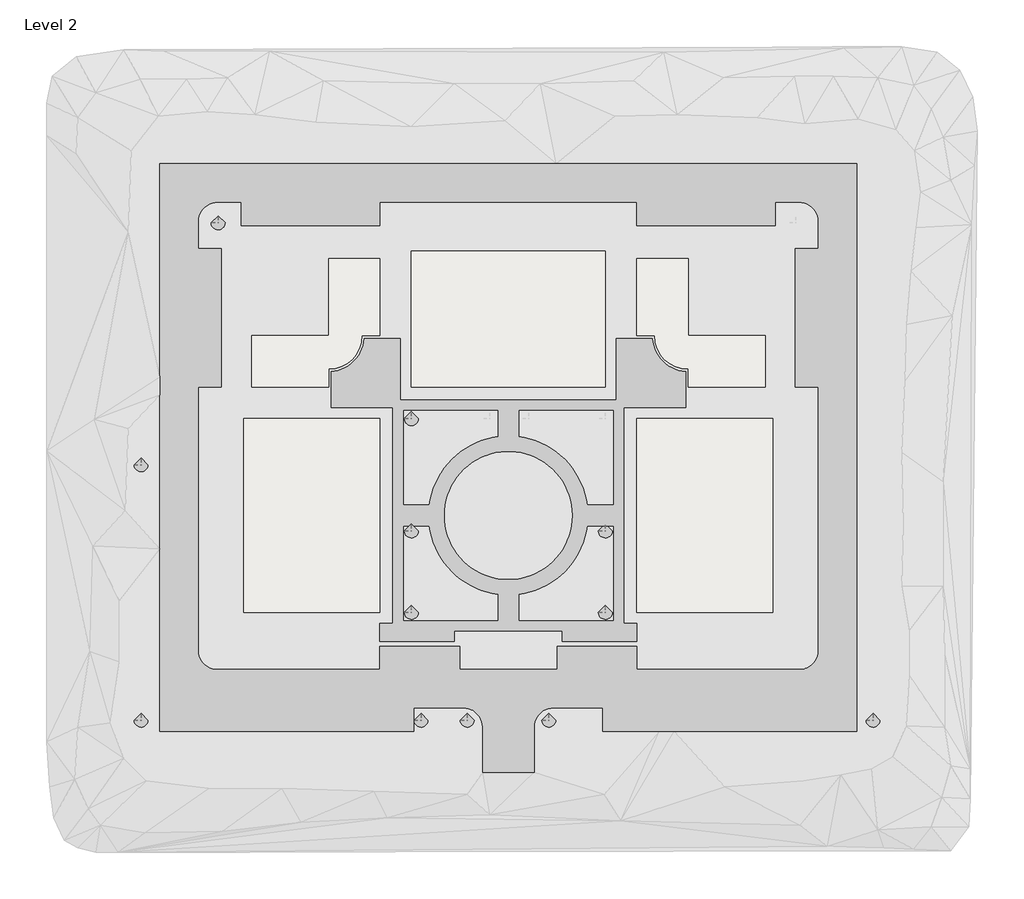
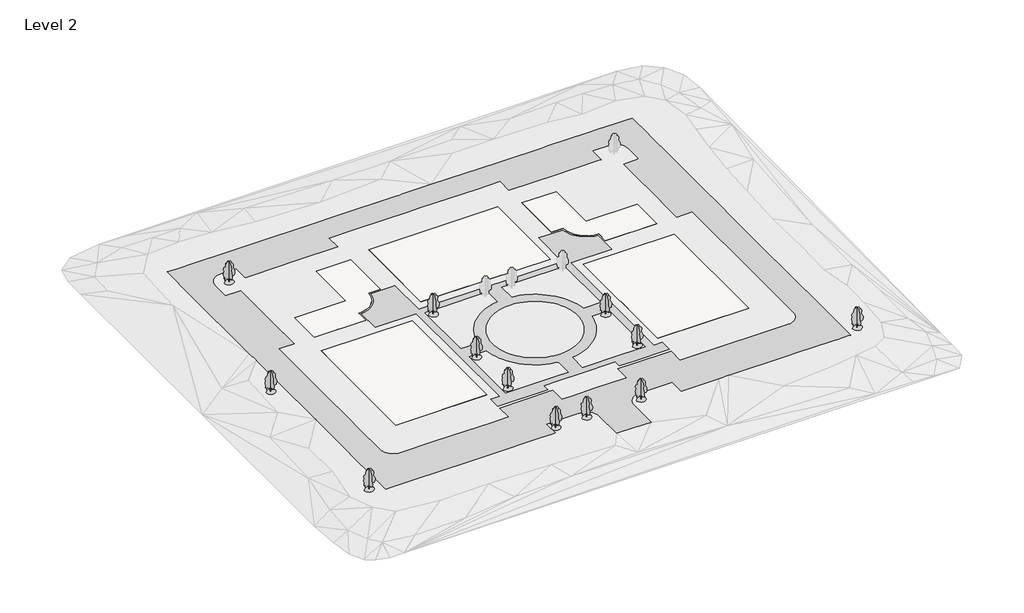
# One storey, part 1 of 2: 12 geographic elements, 5 slabs, 2 proxies.
"""IFC4 building model written with IfcOpenShell, lengths in millimetres."""

import ifcopenshell
import ifcopenshell.guid

model = None  # the IFC model being written
_history = None  # IfcOwnerHistory: only IFC2X3 demands one
_inside = {}  # id of a spatial element -> (the spatial element, [elements in it])
_under = {}  # id of a project, library or spatial element -> (it, [spatial elements below it])
_declared = {}  # id of a project -> (the project, [libraries it declares])
_typed = {}  # id of a type object -> (the type object, [elements of that type])
_made_of = {}  # id of a material, layer set ... -> (it, [elements and type objects made of it])


def new_model(schema):
    """Start an empty IFC model of exactly this schema.

    Asked for "IFC4X3", IfcOpenShell would pick the latest addendum, in which some entities
    have other attributes; the version numbers below select the first issue.
    IFC2X3 requires an IfcOwnerHistory on every rooted entity: one is made here for all.
    """
    global model, _history
    if schema == "IFC4X3":
        model = ifcopenshell.file(schema_version=(4, 3, 0, 0))
    else:
        model = ifcopenshell.file(schema=schema)
    _inside.clear()
    _under.clear()
    _declared.clear()
    _typed.clear()
    _made_of.clear()
    _history = None
    if model.schema == "IFC2X3":
        org = make("IfcOrganization", Name="unknown")
        user = make(
            "IfcPersonAndOrganization",
            ThePerson=make("IfcPerson", FamilyName="unknown"),
            TheOrganization=org,
        )
        app = make(
            "IfcApplication",
            ApplicationDeveloper=org,
            Version="unknown",
            ApplicationFullName="unknown",
            ApplicationIdentifier="unknown",
        )
        _history = make(
            "IfcOwnerHistory",
            OwningUser=user,
            OwningApplication=app,
            ChangeAction="ADDED",
            CreationDate=0,
        )
    return model


def make(cls, **values):
    """One entity of the class cls with the attributes given. An attribute that is None is left unset."""
    return model.create_entity(
        cls, **{name: value for name, value in values.items() if value is not None}
    )


def rooted(cls, **values):
    """An entity with a GlobalId (a new one), such as an element, a storey or a relation."""
    return make(cls, GlobalId=ifcopenshell.guid.new(), OwnerHistory=_history, **values)


def si_unit(unit_type, name, prefix=None):
    """IfcSIUnit, for example si_unit("LENGTHUNIT", "METRE", prefix="MILLI")."""
    return make("IfcSIUnit", UnitType=unit_type, Prefix=prefix, Name=name)


def assignment(units):
    """IfcUnitAssignment: the units of a project."""
    return None if units is None else make("IfcUnitAssignment", Units=units)


def point(xyz):
    """IfcCartesianPoint."""
    return None if xyz is None else make("IfcCartesianPoint", Coordinates=xyz)


def direction(xyz):
    """IfcDirection."""
    return None if xyz is None else make("IfcDirection", DirectionRatios=xyz)


def frame(location, z_axis=None, x_axis=None):
    """IfcAxis2Placement3D, a coordinate frame: its origin and axes. An axis left out is left unset."""
    return make(
        "IfcAxis2Placement3D",
        Location=point(location),
        Axis=direction(z_axis),
        RefDirection=direction(x_axis),
    )


def frame_2d(location, x_axis=None):
    """IfcAxis2Placement2D, a coordinate frame in the plane: its origin and x axis."""
    return make(
        "IfcAxis2Placement2D", Location=point(location), RefDirection=direction(x_axis)
    )


def origin():
    """The frame at (0, 0, 0) with its axes left unset."""
    return frame((0.0, 0.0, 0.0))


def place(relative_to, where):
    """IfcLocalPlacement: puts the frame where relative to a parent placement (None: the world)."""
    return make(
        "IfcLocalPlacement", PlacementRelTo=relative_to, RelativePlacement=where
    )


def context(
    kind, dimensions, precision=None, world=None, true_north=None, identifier=None
):
    """IfcGeometricRepresentationContext, for example the 3D "Model" context."""
    return make(
        "IfcGeometricRepresentationContext",
        ContextIdentifier=identifier,
        ContextType=kind,
        CoordinateSpaceDimension=dimensions,
        Precision=precision,
        WorldCoordinateSystem=world,
        TrueNorth=true_north,
    )


def project(units=None, contexts=None):
    """IfcProject with its units and contexts."""
    return rooted(
        "IfcProject",
        Name="project",
        RepresentationContexts=contexts,
        UnitsInContext=assignment(units),
    )


def spatial(cls, under=None, at=None, **own):
    """A site, building, storey or space (cls), placed at a placement, below another one or the project."""
    s = rooted(cls, ObjectPlacement=at, **own)
    if under is not None:
        _under.setdefault(under.id(), (under, []))[1].append(s)
    return s


def polyline(points):
    """IfcPolyline through the points."""
    return make("IfcPolyline", Points=[point(p) for p in points])


def point_list(points):
    """IfcCartesianPointList2D or 3D."""
    cls = (
        "IfcCartesianPointList2D" if len(points[0]) == 2 else "IfcCartesianPointList3D"
    )
    return make(cls, CoordList=points)


def circle_curve(where, radius):
    """IfcCircle in the frame where."""
    return make("IfcCircle", Position=where, Radius=radius)


def trimmed(basis, trim1, trim2, sense, master):
    """IfcTrimmedCurve: the piece of a basis curve between two trims."""
    return make(
        "IfcTrimmedCurve",
        BasisCurve=basis,
        Trim1=trim1,
        Trim2=trim2,
        SenseAgreement=sense,
        MasterRepresentation=master,
    )


def segment(curve, same_sense, transition):
    """IfcCompositeCurveSegment."""
    return make(
        "IfcCompositeCurveSegment",
        Transition=transition,
        SameSense=same_sense,
        ParentCurve=curve,
    )


def composite_curve(segments, self_intersect=None):
    """IfcCompositeCurve: segments joined end to end."""
    return make("IfcCompositeCurve", Segments=segments, SelfIntersect=self_intersect)


def outline(outer, holes=None, kind="AREA"):
    """IfcArbitraryClosedProfileDef: a profile drawn as a closed curve; with holes, ...WithVoids."""
    if holes is None:
        return make("IfcArbitraryClosedProfileDef", ProfileType=kind, OuterCurve=outer)
    return make(
        "IfcArbitraryProfileDefWithVoids",
        ProfileType=kind,
        OuterCurve=outer,
        InnerCurves=holes,
    )


def extrude(swept, where, along, depth):
    """IfcExtrudedAreaSolid: the profile swept, set in the frame where, extruded along a direction by depth."""
    return make(
        "IfcExtrudedAreaSolid",
        SweptArea=swept,
        Position=where,
        ExtrudedDirection=direction(along),
        Depth=depth,
    )


def triangles(points, corners, closed=None, point_numbers=None):
    """IfcTriangulatedFaceSet: each triangle names its three corners, points numbered from 1."""
    return make(
        "IfcTriangulatedFaceSet",
        Coordinates=point_list(points),
        Closed=closed,
        CoordIndex=corners,
        PnIndex=point_numbers,
    )


def shape(context_of_items, identifier, shape_type, items):
    """IfcShapeRepresentation: the items that make up one representation, for example the "Body"."""
    return make(
        "IfcShapeRepresentation",
        ContextOfItems=context_of_items,
        RepresentationIdentifier=identifier,
        RepresentationType=shape_type,
        Items=items,
    )


def source(mapping_origin, context_of_items, identifier, shape_type, items):
    """IfcRepresentationMap: a shape defined once, which mapped items show again and again."""
    return make(
        "IfcRepresentationMap",
        MappingOrigin=mapping_origin,
        MappedRepresentation=shape(context_of_items, identifier, shape_type, items),
    )


def transform(
    local_origin,
    x_axis=None,
    y_axis=None,
    z_axis=None,
    scale=None,
    scale2=None,
    scale3=None,
    uniform=True,
):
    """IfcCartesianTransformationOperator3D, or its non-uniform kind. x_axis, y_axis, z_axis: its Axis1, 2, 3."""
    if uniform:
        return make(
            "IfcCartesianTransformationOperator3D",
            Axis1=direction(x_axis),
            Axis2=direction(y_axis),
            LocalOrigin=point(local_origin),
            Scale=scale,
            Axis3=direction(z_axis),
        )
    return make(
        "IfcCartesianTransformationOperator3DnonUniform",
        Axis1=direction(x_axis),
        Axis2=direction(y_axis),
        LocalOrigin=point(local_origin),
        Scale=scale,
        Axis3=direction(z_axis),
        Scale2=scale2,
        Scale3=scale3,
    )


def mapped(mapping_source, mapping_target):
    """IfcMappedItem: shows the shape of a source again, moved by a transform."""
    return make(
        "IfcMappedItem", MappingSource=mapping_source, MappingTarget=mapping_target
    )


def made_of(thing, what):
    """Note that an element or type object is made of a material, layer set ...; save() writes the relation."""
    if what is not None:
        _made_of.setdefault(what.id(), (what, []))[1].append(thing)
    return thing


def element(
    cls,
    number,
    at=None,
    inside=None,
    cuts=None,
    type_object=None,
    material=None,
    context=None,
    identifier="Body",
    shape_type=None,
    held_by="IfcProductDefinitionShape",
    body=None,
    shapes=None,
    **own,
):
    """One element of the class cls, such as IfcWall. Its Tag is "e" and its number.

    at: its placement. inside: the storey or other place that contains it. cuts: it is an
    opening in that element (IfcRelVoidsElement). A single representation is given by context,
    identifier, shape_type and body (its items); several are given by shapes. held_by: the class
    of the entity that holds the representations. save() writes the other relations.
    """
    e = rooted(cls, Tag="e%d" % number, ObjectPlacement=at, **own)
    if body is not None:
        shapes = [shape(context, identifier, shape_type, body)]
    if shapes is not None:
        e.Representation = make(held_by, Representations=shapes)
    if inside is not None:
        _inside.setdefault(inside.id(), (inside, []))[1].append(e)
    if cuts is not None:
        rooted(
            "IfcRelVoidsElement", RelatingBuildingElement=cuts, RelatedOpeningElement=e
        )
    if type_object is not None:
        _typed.setdefault(type_object.id(), (type_object, []))[1].append(e)
    return made_of(e, material)


def aggregate(whole, parts):
    """IfcRelAggregates: a whole, such as a stair, and the parts it consists of."""
    return rooted("IfcRelAggregates", RelatingObject=whole, RelatedObjects=parts)


def save(model, path):
    """Write the relations noted so far, then the file.

    IfcRelAggregates (storeys below a building ...), IfcRelContainedInSpatialStructure (elements
    in a storey), IfcRelDefinesByType, IfcRelAssociatesMaterial and IfcRelDeclares: one each for
    every whole, place, type object, material and project.
    """
    for whole, parts in _under.values():
        aggregate(whole, parts)
    for where, things in _inside.values():
        rooted(
            "IfcRelContainedInSpatialStructure",
            RelatedElements=things,
            RelatingStructure=where,
        )
    for kind, things in _typed.values():
        rooted("IfcRelDefinesByType", RelatedObjects=things, RelatingType=kind)
    for what, things in _made_of.values():
        rooted("IfcRelAssociatesMaterial", RelatedObjects=things, RelatingMaterial=what)
    for by, libraries in _declared.values():
        rooted("IfcRelDeclares", RelatingContext=by, RelatedDefinitions=libraries)
    model.write(path)


def rpc_tree_deciduous_red_ash_25_14781bec(model_context):
    return source(origin(), model_context, "Body", "Tessellation", [
        triangles([(-1644.9525009, 0.0, 6.19e-05), (-1601.4651844, -376.9143482, 6.19e-05), (-1477.6144592, -723.0498339, 6.19e-05), (-1283.3164352, -1028.4894024, 6.19e-05), (-1028.4894751, -1283.3165806, 6.19e-05), (-723.0496885, -1477.6140232, 6.19e-05), (-376.9141665, -1601.4651844, 6.19e-05), (7.19e-05, -1644.9525009, 6.19e-05), (376.9143846, -1601.4651844, 6.19e-05), (723.0499065, -1477.6143139, 6.19e-05), (1028.4894751, -1283.3164352, 6.19e-05), (1283.3168713, -1028.4894751, 6.19e-05), (1477.6141685, -723.0496159, 6.19e-05), (1601.4651844, -376.9140939, 6.19e-05), (1644.9525009, 0.0001438, 6.19e-05), (-0.0002157, 1644.9525009, 6.19e-05), (-1.07e-05, -102.8462569, 0.0), (2.5e-05, -101.2467179, 1194.554048), (3.23e-05, -129.8819613, 1537.8029366), (7e-07, -438.8253948, 1558.1655018), (-5.78e-05, -976.3912743, 1478.3068588), (-0.0001405, -1903.692667, 1948.6771305), (-0.0001413, -2011.2060173, 2298.095192), (-0.0001361, -2145.5975235, 2943.1744217), (-0.0001119, -2105.2803623, 3615.1319527), (-5.81e-05, -1740.3819958, 4141.0172951), (-5.5e-06, -1527.3986298, 5160.6350006), (-3.5e-06, -1715.5451397, 5886.3488434), (4.79e-05, -1406.4449661, 6531.4286545), (0.0001569, -626.9743755, 7458.7301926), (0.0001985, -273.2007115, 7618.1942963), (0.0002662, 394.4016166, 7552.8046829), (0.0003121, 1026.0418774, 6880.8468613), (0.0003149, 1214.190204, 6316.4022446), (0.0003323, 1496.411277, 5913.2274353), (0.0003598, 1805.5131947, 5751.9582092), (0.0003531, 1818.9521999, 5483.1746155), (0.0003523, 1899.587249, 5174.0742966), (0.0003275, 1765.1957428, 4811.2170845), (0.0003297, 1886.1480984, 4461.7991684), (0.0003279, 2007.1004539, 3977.9897461), (0.0003211, 1980.222298, 3843.5979492), (0.0002877, 1751.7567375, 3521.0580437), (0.0002729, 1737.3115437, 3077.5662186), (0.0002632, 1724.8782909, 2795.3439102), (0.0002542, 1738.3174416, 2445.9262848), (0.0002412, 1751.7568829, 1962.1167171), (0.0002172, 1563.6084835, 1814.2857697), (0.0001807, 1214.1907127, 1814.2857697), (0.0001827, 1375.4605202, 1317.0371967), (0.0001715, 1348.4951603, 1034.8845062), (0.0001516, 1103.0310734, 1227.8363914), (9.86e-05, 629.4626684, 1106.7075932), (9.8e-05, 551.7118183, 1357.0609165), (6.29e-05, 215.9127657, 1354.0025276), (5.03e-05, 130.8012366, 1228.3346169), (3.27e-05, 79.5493323, 818.2831198), (1.17e-05, 112.1660096, 1.28e-05), (-110.870867, 4.8e-06, 4.46e-05), (-66.7114758, -9.64e-05, 833.5016676), (-129.3072962, -0.000136, 1187.9435503), (-290.7878647, -0.00015, 1365.31768), (-483.6364677, -0.0001408, 1358.6964272), (-796.2678211, -0.000103, 1155.7673166), (-1427.9080456, -6.9e-05, 1102.0108595), (-1419.1706429, -7.35e-05, 1136.7646975), (-1409.8454853, -7.82e-05, 1172.6938271), (-1399.3449635, -8.32e-05, 1210.9736853), (-1387.0813225, -8.87e-05, 1252.7803631), (-1372.4668076, -9.49e-05, 1299.2876987), (-1354.9136639, -0.0001019, 1351.6733093), (-1333.8341366, -0.0001099, 1411.1111057), (-1307.2693336, -0.0001176, 1466.2392815), (-1274.3570984, -0.0001239, 1506.556588), (-1236.1555058, -0.0001289, 1534.5316246), (-1193.7220493, -0.0001329, 1552.6338627), (-1148.1152401, -0.0001362, 1563.3300121), (-1100.3923536, -0.000139, 1569.0895443), (-1051.6116829, -0.0001415, 1572.3809132), (-1199.4421944, -0.0001703, 1868.0423721), (-1629.4953049, -0.0001418, 1787.4073231), (-1871.3997253, -0.0001601, 2029.3124702), (-1723.5690685, -0.0001874, 2204.0214283), (-1763.886375, -0.0002433, 2687.8309959), (-1911.7170319, -0.0003442, 3588.2539421), (-1898.4807758, -0.0003892, 3961.1654823), (-1719.9175472, -0.0004688, 4563.3255295), (-1952.0346291, -0.0005347, 5200.9523071), (-1777.3253803, -0.000616, 5819.1535263), (-1414.4687496, -0.0006447, 5926.6667313), (-1138.413216, -0.0006626, 5975.3625961), (-1239.7599369, -0.0007228, 6517.9893585), (-930.6591093, -0.000802, 7068.9952606), (-352.7753057, -0.0008898, 7593.1219894), (117.5946844, -0.0009135, 7620.0), (534.2087442, -0.0009301, 7606.5601227), (883.626733, -0.0008893, 7136.1905777), (947.8720848, -0.00081, 6447.5180786), (938.6469212, -0.0007795, 6194.9695404), (1286.8011063, -0.0008333, 6517.9893585), (1622.7800171, -0.0007823, 5966.9840378), (1609.3410118, -0.0007196, 5446.5094116), (1549.4574577, -0.00064, 4800.6520317), (1743.7323727, -0.0005809, 4233.3331718), (2131.7640656, -0.0005067, 3469.1978371), (2144.1354034, -0.0004386, 2892.8094727), (2066.2719875, -0.0003531, 2204.021283), (1945.319632, -0.0003141, 1921.7989746), (1703.4147755, -0.0003004, 1894.9206734), (1233.0446491, -0.0002542, 1679.8941181), (816.4305439, -0.0002007, 1384.2328045), (257.4765441, -0.0002049, 1624.5688614), (93.0508701, -0.0001766, 1447.6347485), (104.1552431, -4.6e-06, 3.52e-05)], [[15, 16, 1], [14, 15, 1], [14, 1, 2], [13, 14, 2], [13, 2, 3], [13, 3, 4], [12, 13, 4], [11, 12, 4], [11, 4, 5], [11, 5, 6], [11, 6, 7], [11, 7, 8], [11, 8, 9], [11, 9, 10], [50, 51, 52], [57, 58, 17], [57, 17, 18], [56, 57, 18], [56, 18, 19], [55, 56, 19], [49, 50, 52], [52, 53, 54], [49, 52, 54], [35, 36, 37], [46, 47, 48], [46, 48, 49], [21, 22, 23], [20, 21, 23], [20, 23, 24], [20, 24, 25], [20, 25, 26], [19, 20, 26], [19, 26, 27], [45, 46, 49], [31, 32, 33], [30, 31, 33], [29, 30, 33], [29, 33, 34], [28, 29, 34], [27, 28, 34], [19, 27, 34], [19, 34, 35], [19, 35, 37], [19, 37, 38], [19, 38, 39], [19, 39, 40], [19, 40, 41], [19, 41, 42], [19, 42, 43], [19, 43, 44], [19, 44, 45], [19, 45, 49], [19, 49, 54], [55, 19, 54], [64, 65, 66], [64, 66, 67], [64, 67, 68], [99, 100, 101], [64, 68, 69], [64, 69, 70], [64, 70, 71], [114, 59, 60], [113, 114, 60], [113, 60, 61], [113, 61, 62], [64, 71, 72], [64, 72, 73], [64, 73, 74], [64, 74, 75], [64, 75, 76], [64, 76, 77], [64, 77, 78], [64, 78, 79], [63, 64, 79], [81, 82, 83], [80, 81, 83], [99, 101, 102], [107, 108, 109], [110, 111, 112], [88, 89, 90], [87, 88, 90], [87, 90, 91], [80, 83, 84], [95, 96, 97], [95, 97, 98], [94, 95, 98], [93, 94, 98], [92, 93, 98], [91, 92, 98], [91, 98, 99], [87, 91, 99], [87, 99, 102], [87, 102, 103], [87, 103, 104], [86, 87, 104], [85, 86, 104], [84, 85, 104], [80, 84, 104], [80, 104, 105], [80, 105, 106], [80, 106, 107], [80, 107, 109], [80, 109, 110], [80, 110, 112], [79, 80, 112], [63, 79, 112], [62, 63, 112], [113, 62, 112]], closed=False),
    ])


model = new_model("IFC4")

# Units and contexts
model_context = context("Model", 3, world=origin())
ifc_project = project(units=[si_unit("LENGTHUNIT", "METRE", prefix="MILLI")], contexts=[model_context])

# Site, building, storey
site = spatial("IfcSite", under=ifc_project)
building = spatial("IfcBuilding", under=site)
storey = spatial("IfcBuildingStorey", under=building, Name="Level 2", Elevation=3047.9999999)

# Proxies
placement = place(None, origin())
element("IfcBuildingElementProxy", 1, Name="Building Element Proxy", at=placement, inside=storey, context=model_context, shape_type="Tessellation", body=[
    triangles([(-96458.3541504, -141259.5265137, 3048.0), (-96458.3541504, -151927.5265137, 3048.0), (-90362.3541504, -151927.5265137, 3048.0), (-84266.3541504, -151927.5265137, 3048.0), (-84266.3541504, -141259.5265137, 3048.0), (-84219.8174561, -140608.8592529, 3048.0), (-84081.1561523, -139971.4376953, 3048.0), (-83853.1979736, -139360.2470947, 3048.0), (-83540.5658936, -138787.7145996, 3048.0), (-83149.640918, -138265.4953125, 3048.0), (-82688.3853516, -137804.2304443, 3048.0), (-82166.1660645, -137413.3147705, 3048.0), (-81593.6335693, -137100.6826904, 3048.0), (-80982.4429688, -136872.7245117, 3048.0), (-80345.0214111, -136734.0539063, 3048.0), (-79694.3541504, -136687.5265137, 3048.0), (-70630.3399658, -136687.5265137, 3048.0), (-67959.5588013, -136687.5265137, 3048.0), (-67959.5588013, -142173.9265137, 3048.0), (-54593.6723145, -142173.9265137, 3048.0), (-50988.4086548, -142173.9265137, 3048.0), (-30015.5818359, -142173.9265137, 3048.0), (-27380.2333923, -142173.9265137, 3048.0), (-14368.7717834, -142173.9265137, 3048.0), (-12021.3371613, -142173.9265137, 3048.0), (-8520.228772, -142173.9265137, 3048.0), (-7609.1582199, -142173.9265137, 3048.0), (-7609.1582199, -141262.8472412, 3048.0), (-7609.1582199, -135897.4445068, 3048.0), (-7609.1582199, -128757.108252, 3048.0), (-7609.1582199, -119744.5513916, 3048.0), (-7609.1582199, -109311.1696289, 3048.0), (-7609.1582199, -103111.0178467, 3048.0), (-7609.1582199, -88141.7269043, 3048.0), (-7609.1582199, -67102.3320557, 3048.0), (-7609.1582199, -63543.7213623, 3048.0), (-7609.1582199, -48692.6557617, 3048.0), (-7609.1582199, -45786.2285156, 3048.0), (-7609.1582199, -34925.2565735, 3048.0), (-7609.1582199, -29394.9894836, 3048.0), (-7609.1582199, -20175.2708496, 3048.0), (-7609.1582199, -15160.5374084, 3048.0), (-7609.1582199, -9469.011557, 3048.0), (-7609.1582199, -7452.3218628, 3048.0), (-9769.8966797, -7452.3218628, 3048.0), (-13137.2725342, -7452.3218628, 3048.0), (-20332.1054626, -7452.3218628, 3048.0), (-23395.2487244, -7452.3218628, 3048.0), (-37615.0575073, -7452.3218628, 3048.0), (-40375.0099731, -7452.3218628, 3048.0), (-52788.1732178, -7452.3218628, 3048.0), (-55510.2210205, -7452.3218628, 3048.0), (-79028.6831543, -7452.3218628, 3048.0), (-89744.5965088, -7452.3218628, 3048.0), (-90362.3541504, -7452.3218628, 3048.0), (-91818.4420166, -7452.3218628, 3048.0), (-112747.4808105, -7452.3218628, 3048.0), (-121728.1977539, -7452.3218628, 3048.0), (-142112.3953857, -7452.3218628, 3048.0), (-152868.4644287, -7452.3218628, 3048.0), (-163060.4655762, -7452.3218628, 3048.0), (-169916.8098633, -7452.3218628, 3048.0), (-173115.5541504, -7452.3218628, 3048.0), (-173115.5541504, -12340.9792786, 3048.0), (-173115.5541504, -16797.6432953, 3048.0), (-173115.5541504, -19343.470459, 3048.0), (-173115.5541504, -58140.023291, 3048.0), (-173115.5541504, -62355.6543457, 3048.0), (-173115.5541504, -78335.3859375, 3048.0), (-173115.5541504, -96485.831543, 3048.0), (-173115.5541504, -98940.6863525, 3048.0), (-173115.5541504, -118406.8004883, 3048.0), (-173115.5541504, -122301.5302002, 3048.0), (-173115.5541504, -133177.6942383, 3048.0), (-173115.5541504, -139265.5924072, 3048.0), (-173115.5541504, -142173.9265137, 3048.0), (-171062.6189941, -142173.9265137, 3048.0), (-161579.2164551, -142173.9265137, 3048.0), (-155924.3616211, -142173.9265137, 3048.0), (-141364.1619873, -142173.9265137, 3048.0), (-134914.7603027, -142173.9265137, 3048.0), (-118098.4844238, -142173.9265137, 3048.0), (-113948.1331055, -142173.9265137, 3048.0), (-112765.1541504, -142173.9265137, 3048.0), (-112765.1541504, -136687.5265137, 3048.0), (-101809.9809814, -136687.5265137, 3048.0), (-101030.3541504, -136687.5265137, 3048.0), (-100379.6961914, -136734.0539063, 3048.0), (-99742.2746338, -136872.7245117, 3048.0), (-99131.0840332, -137100.6826904, 3048.0), (-98978.0329102, -137184.2496826, 3048.0), (-98558.5515381, -137413.3147705, 3048.0), (-98036.332251, -137804.2304443, 3048.0), (-97575.0673828, -138265.4953125, 3048.0), (-97184.1424072, -138787.7145996, 3048.0), (-96871.5196289, -139360.2470947, 3048.0), (-96643.5521484, -139971.4376953, 3048.0), (-96504.8908447, -140608.8592529, 3048.0), (-120842.3541504, -16596.3218628, 3048.0), (-111973.5931641, -16596.3218628, 3048.0), (-92323.0716797, -16596.3218628, 3048.0), (-88392.1767334, -16596.3218628, 3048.0), (-68080.4816528, -16596.3218628, 3048.0), (-59882.3588013, -16596.3218628, 3048.0), (-59882.3588013, -22082.7218628, 3048.0), (-43016.1185303, -22082.7218628, 3048.0), (-36760.488739, -22082.7218628, 3048.0), (-27869.6965393, -22082.7218628, 3048.0), (-26963.9588013, -22082.7218628, 3048.0), (-26963.9588013, -17204.3033569, 3048.0), (-26963.9588013, -16596.3218628, 3048.0), (-21325.1588013, -16596.3218628, 3048.0), (-20674.493866, -16642.8585571, 3048.0), (-20037.0769592, -16781.5198608, 3048.0), (-19425.880545, -17009.4838531, 3048.0), (-18853.3480499, -17322.1112823, 3048.0), (-18331.1345764, -17713.0350952, 3048.0), (-17869.870871, -18174.2988007, 3048.0), (-17478.9470581, -18696.5122742, 3048.0), (-17166.3207916, -19269.0447693, 3048.0), (-16938.3556366, -19880.2400208, 3048.0), (-16799.6943329, -20517.6592529, 3048.0), (-16753.1576385, -21168.3218628, 3048.0), (-16753.1576385, -26553.1513184, 3048.0), (-16753.1576385, -27569.1218628, 3048.0), (-22239.5588013, -27569.1218628, 3048.0), (-22239.5588013, -28669.615155, 3048.0), (-22239.5588013, -35337.7267456, 3048.0), (-22239.5588013, -46411.753125, 3048.0), (-22239.5588013, -54882.9383789, 3048.0), (-22239.5588013, -60487.5218628, 3048.0), (-16753.1576385, -60487.5218628, 3048.0), (-16753.1576385, -98657.3269043, 3048.0), (-16753.1576385, -111345.1664063, 3048.0), (-16753.1576385, -122722.3696289, 3048.0), (-16753.1576385, -122971.5265137, 3048.0), (-16799.6943329, -123622.1844727, 3048.0), (-16938.3556366, -124259.6060303, 3048.0), (-17166.3207916, -124870.7966309, 3048.0), (-17478.9470581, -125443.329126, 3048.0), (-17869.870871, -125965.5484131, 3048.0), (-18331.1345764, -126426.8132813, 3048.0), (-18853.3480499, -126817.7289551, 3048.0), (-19425.880545, -127130.3610352, 3048.0), (-19872.0754028, -127296.7787842, 3048.0), (-20037.0769592, -127358.3192139, 3048.0), (-20674.493866, -127496.9898193, 3048.0), (-21325.1588013, -127543.5265137, 3048.0), (-34741.3910522, -127543.5265137, 3048.0), (-41871.5883911, -127543.5265137, 3048.0), (-59882.3588013, -127543.5265137, 3048.0), (-59882.3588013, -122057.1265137, 3048.0), (-72794.2171875, -122057.1265137, 3048.0), (-78779.9541504, -122057.1265137, 3048.0), (-78779.9541504, -127543.5265137, 3048.0), (-90362.3541504, -127543.5265137, 3048.0), (-98445.9909668, -127543.5265137, 3048.0), (-101944.7541504, -127543.5265137, 3048.0), (-101944.7541504, -122057.1265137, 3048.0), (-103048.1844727, -122057.1265137, 3048.0), (-120842.3541504, -122057.1265137, 3048.0), (-120842.3541504, -127543.5265137, 3048.0), (-127508.0124023, -127543.5265137, 3048.0), (-135716.2462646, -127543.5265137, 3048.0), (-147842.1479736, -127543.5265137, 3048.0), (-159399.5541504, -127543.5265137, 3048.0), (-160050.2307129, -127496.9898193, 3048.0), (-160687.6429688, -127358.3192139, 3048.0), (-161298.8428711, -127130.3610352, 3048.0), (-161871.3660645, -126817.7289551, 3048.0), (-162393.5853516, -126426.8132813, 3048.0), (-162854.840918, -125965.5484131, 3048.0), (-163245.7751953, -125443.329126, 3048.0), (-163558.3886719, -124870.7966309, 3048.0), (-163786.3561523, -124259.6060303, 3048.0), (-163925.0267578, -123622.1844727, 3048.0), (-163971.5541504, -122971.5265137, 3048.0), (-163971.5541504, -109289.2825928, 3048.0), (-163971.5541504, -104079.330835, 3048.0), (-163971.5541504, -88201.2767578, 3048.0), (-163971.5541504, -60487.5218628, 3048.0), (-158485.1541504, -60487.5218628, 3048.0), (-158485.1541504, -46724.2270752, 3048.0), (-158485.1541504, -34220.483313, 3048.0), (-158485.1541504, -27569.1218628, 3048.0), (-163971.5541504, -27569.1218628, 3048.0), (-163971.5541504, -21168.3218628, 3048.0), (-163925.0267578, -20517.6592529, 3048.0), (-163786.3561523, -19880.2400208, 3048.0), (-163558.3886719, -19269.0447693, 3048.0), (-163245.7751953, -18696.5122742, 3048.0), (-162854.840918, -18174.2988007, 3048.0), (-162393.5853516, -17713.0350952, 3048.0), (-161871.3660645, -17322.1112823, 3048.0), (-161298.8428711, -17009.4838531, 3048.0), (-160687.6429688, -16781.5198608, 3048.0), (-160050.2307129, -16642.8585571, 3048.0), (-159399.5541504, -16596.3218628, 3048.0), (-153760.7541504, -16596.3218628, 3048.0), (-153760.7541504, -22082.7218628, 3048.0), (-151061.086377, -22082.7218628, 3048.0), (-135421.6781982, -22082.7218628, 3048.0), (-120842.3541504, -22082.7218628, 3048.0)], [[75, 76, 77], [75, 77, 78], [78, 74, 75], [169, 74, 78], [167, 78, 166], [78, 79, 166], [165, 79, 80], [164, 80, 81], [164, 165, 80], [163, 164, 81], [163, 82, 162], [79, 165, 166], [174, 175, 73], [174, 73, 74], [73, 176, 177], [176, 73, 175], [72, 73, 177], [74, 173, 174], [167, 168, 78], [173, 74, 172], [171, 74, 170], [74, 171, 172], [168, 169, 78], [74, 169, 170], [163, 81, 82], [85, 83, 84], [85, 82, 83], [9, 156, 95], [156, 94, 95], [2, 3, 1], [1, 3, 5], [6, 97, 98], [5, 98, 1], [96, 97, 7], [3, 4, 5], [95, 96, 8], [85, 86, 158], [162, 160, 161], [158, 86, 87], [158, 87, 88], [158, 160, 162], [88, 157, 158], [162, 85, 158], [92, 93, 157], [91, 92, 157], [89, 90, 157], [157, 90, 91], [93, 156, 157], [89, 157, 88], [93, 94, 156], [85, 162, 82], [71, 72, 178], [70, 71, 179], [68, 69, 181], [67, 68, 181], [70, 180, 69], [179, 180, 70], [69, 180, 181], [67, 186, 66], [186, 67, 183], [183, 67, 181], [178, 179, 71], [177, 178, 72], [66, 186, 187], [189, 65, 66], [188, 66, 187], [64, 65, 192], [63, 64, 62], [193, 62, 64], [188, 189, 66], [192, 65, 191], [191, 65, 190], [62, 193, 61], [64, 192, 193], [193, 194, 61], [61, 194, 195], [190, 65, 189], [186, 184, 185], [198, 61, 197], [197, 61, 196], [186, 183, 184], [159, 160, 158], [59, 201, 202], [199, 200, 201], [181, 182, 183], [99, 202, 203], [99, 58, 202], [201, 59, 199], [198, 199, 60], [59, 60, 199], [59, 202, 58], [99, 57, 58], [60, 61, 198], [56, 100, 101], [55, 101, 102], [56, 57, 100], [54, 55, 102], [56, 101, 55], [102, 53, 54], [100, 57, 99], [196, 61, 195], [98, 5, 6], [96, 7, 8], [156, 10, 11], [10, 156, 9], [9, 95, 8], [20, 18, 19], [21, 151, 20], [13, 156, 12], [21, 22, 150], [12, 156, 11], [14, 15, 155], [13, 14, 155], [155, 16, 17], [154, 155, 153], [155, 15, 16], [156, 13, 155], [153, 17, 18], [150, 22, 149], [21, 150, 151], [152, 153, 151], [151, 18, 20], [153, 18, 151], [17, 153, 155], [22, 23, 149], [148, 24, 147], [146, 147, 24], [24, 145, 146], [24, 144, 145], [148, 23, 24], [28, 25, 26], [28, 26, 27], [29, 144, 24], [143, 144, 29], [29, 24, 25], [25, 28, 29], [142, 29, 30], [143, 29, 142], [142, 30, 141], [140, 30, 139], [139, 30, 138], [30, 140, 141], [136, 137, 31], [135, 136, 31], [33, 134, 32], [31, 32, 134], [134, 135, 31], [138, 30, 137], [137, 30, 31], [148, 149, 23], [134, 33, 133], [50, 106, 107], [104, 105, 106], [108, 109, 110], [108, 110, 107], [110, 111, 107], [128, 129, 38], [125, 127, 128], [127, 125, 126], [37, 129, 130], [52, 53, 103], [52, 103, 104], [51, 52, 104], [51, 104, 106], [50, 51, 106], [107, 111, 49], [113, 114, 47], [49, 111, 48], [112, 47, 48], [47, 112, 113], [111, 112, 48], [114, 115, 47], [49, 50, 107], [130, 131, 132], [53, 102, 103], [39, 128, 38], [124, 125, 40], [130, 132, 37], [124, 41, 123], [41, 122, 123], [132, 34, 35], [35, 36, 132], [38, 129, 37], [39, 40, 125], [39, 125, 128], [36, 37, 132], [133, 33, 34], [40, 41, 124], [119, 120, 42], [118, 119, 42], [116, 117, 46], [115, 116, 46], [118, 46, 117], [41, 42, 120], [41, 121, 122], [42, 46, 118], [45, 46, 43], [43, 44, 45], [46, 42, 43], [120, 121, 41], [115, 46, 47], [133, 34, 132], [7, 97, 6]], closed=False),
])
element("IfcBuildingElementProxy", 2, Name="Building Element Proxy", at=placement, inside=storey, context=model_context, shape_type="Tessellation", body=[
    triangles([(-115965.5541504, -63535.5218628, 3048.0), (-115965.5541504, -48905.1218628, 3048.0), (-124521.7574707, -48905.1218628, 3048.0), (-124628.057959, -49768.622644, 3048.0), (-124821.7112549, -50616.8173828, 3048.0), (-125100.7174805, -51440.8880127, 3048.0), (-125462.1744873, -52232.2676147, 3048.0), (-125902.3150635, -52982.7380859, 3048.0), (-126416.5813477, -53684.4999023, 3048.0), (-126999.6248291, -54330.255835, 3048.0), (-127645.3807617, -54913.2946655, 3048.0), (-128347.1425781, -55427.5609497, 3048.0), (-129097.6083984, -55867.7061768, 3048.0), (-129888.9926514, -56229.1631836, 3048.0), (-130713.0632813, -56508.1694092, 3048.0), (-131561.2533691, -56701.827356, 3048.0), (-132424.7541504, -56808.1231934, 3048.0), (-132424.7541504, -65364.3218628, 3048.0), (-117794.3541504, -65364.3218628, 3048.0), (-117794.3541504, -116570.7265137, 3048.0), (-120842.3541504, -116570.7265137, 3048.0), (-120842.3541504, -120837.9265137, 3048.0), (-103163.9541504, -120837.9265137, 3048.0), (-103163.9541504, -120689.163501, 3048.0), (-103163.9541504, -118399.5265137, 3048.0), (-97941.352002, -118399.5265137, 3048.0), (-90362.3541504, -118399.5265137, 3048.0), (-77560.7588013, -118399.5265137, 3048.0), (-77560.7588013, -120837.9265137, 3048.0), (-72974.5410645, -120837.9265137, 3048.0), (-59882.3588013, -120837.9265137, 3048.0), (-59882.3588013, -116570.7265137, 3048.0), (-62930.3588013, -116570.7265137, 3048.0), (-62930.3588013, -65364.3218628, 3048.0), (-48299.9588013, -65364.3218628, 3048.0), (-48299.9588013, -56808.1231934, 3048.0), (-49163.4595825, -56701.827356, 3048.0), (-50011.6543213, -56508.1694092, 3048.0), (-50835.7249512, -56229.1631836, 3048.0), (-51627.1045532, -55867.7061768, 3048.0), (-52377.5750244, -55427.5609497, 3048.0), (-53079.3368408, -54913.2946655, 3048.0), (-53725.0881226, -54330.255835, 3048.0), (-54308.131604, -53684.4999023, 3048.0), (-54822.3978882, -52982.7380859, 3048.0), (-55262.5431152, -52232.2676147, 3048.0), (-55624.0001221, -51440.8880127, 3048.0), (-55903.0063477, -50616.8173828, 3048.0), (-56096.6642944, -49768.622644, 3048.0), (-56202.9601318, -48905.1218628, 3048.0), (-64759.1588013, -48905.1218628, 3048.0), (-64759.1588013, -63535.5218628, 3048.0), (-81449.735376, -63535.5218628, 3048.0), (-94913.5368164, -63535.5218628, 3048.0), (-108001.017041, -63535.5218628, 3048.0), (-92800.7541504, -65973.9218628, 3048.0), (-92800.7541504, -72227.8982666, 3048.0), (-94158.9968262, -72455.2332275, 3048.0), (-95422.7708496, -72762.7958496, 3048.0), (-95497.073291, -72780.8784668, 3048.0), (-96807.877002, -73203.1038574, 3048.0), (-98084.4595459, -73719.6676758, 3048.0), (-99320.0213379, -74327.8259033, 3048.0), (-100508.0232422, -75024.3508301, 3048.0), (-101642.1493652, -75805.5403564, 3048.0), (-102716.3628662, -76667.2505493, 3048.0), (-103724.9803711, -77604.900293, 3048.0), (-104662.6254639, -78613.5177979, 3048.0), (-105524.3403076, -79687.7312988, 3048.0), (-106305.529834, -80821.8574219, 3048.0), (-106508.6988281, -81168.3851074, 3048.0), (-107002.0547607, -82009.8500244, 3048.0), (-107610.2129883, -83245.4211182, 3048.0), (-108126.7768066, -84522.0036621, 3048.0), (-108549.0021973, -85832.807373, 3048.0), (-108874.6474365, -87170.8838379, 3048.0), (-109101.9823975, -88529.1265137, 3048.0), (-115355.9541504, -88529.1265137, 3048.0), (-115355.9541504, -65973.9218628, 3048.0), (-107794.6482422, -65973.9218628, 3048.0), (-95048.1053467, -65973.9218628, 3048.0), (-92800.7541504, -115961.1265137, 3048.0), (-97806.7834717, -115961.1265137, 3048.0), (-103564.1064697, -115961.1265137, 3048.0), (-115355.9541504, -115961.1265137, 3048.0), (-115355.9541504, -93405.9265137, 3048.0), (-109101.9823975, -93405.9265137, 3048.0), (-108874.6474365, -94764.1598877, 3048.0), (-108549.0021973, -96102.2363525, 3048.0), (-108126.7768066, -97413.0400635, 3048.0), (-107610.2129883, -98689.6226074, 3048.0), (-107002.0547607, -99925.1937012, 3048.0), (-106305.529834, -101113.1863037, 3048.0), (-105524.3403076, -102247.3124268, 3048.0), (-104662.6254639, -103321.5259277, 3048.0), (-104630.9436768, -103355.6168701, 3048.0), (-103724.9803711, -104330.1434326, 3048.0), (-102716.3628662, -105267.7978271, 3048.0), (-101642.1493652, -106129.5033691, 3048.0), (-100508.0232422, -106910.6928955, 3048.0), (-99320.0213379, -107607.2178223, 3048.0), (-98084.4595459, -108215.3760498, 3048.0), (-97394.7156006, -108494.475293, 3048.0), (-96807.877002, -108731.9398682, 3048.0), (-95497.073291, -109154.1652588, 3048.0), (-94158.9968262, -109479.810498, 3048.0), (-92800.7541504, -109707.145459, 3048.0), (-105602.3541504, -90967.5265137, 3048.0), (-105552.9432129, -89741.2106689, 3048.0), (-105405.0080566, -88522.8571289, 3048.0), (-105159.5067627, -87320.3537842, 3048.0), (-104818.0578369, -86141.5048096, 3048.0), (-104382.8471924, -84993.9469482, 3048.0), (-103856.7118652, -83885.14021, 3048.0), (-103243.0562988, -82822.2655518, 3048.0), (-102545.8616455, -81812.2062744, 3048.0), (-101769.6578613, -80861.5294189, 3048.0), (-100919.4771973, -79976.392749, 3048.0), (-100000.8262939, -79162.544751, 3048.0), (-99019.6675781, -78425.2502197, 3048.0), (-97982.3541504, -77769.2949097, 3048.0), (-96895.6297852, -77198.9390259, 3048.0), (-95766.5359131, -76717.8753662, 3048.0), (-95638.683252, -76675.1895996, 3048.0), (-94602.3930176, -76329.2246704, 3048.0), (-93410.754126, -76035.5123657, 3048.0), (-92199.3396973, -75838.6406616, 3048.0), (-90976.0097168, -75739.879248, 3048.0), (-89748.7078857, -75739.879248, 3048.0), (-88525.3779053, -75838.6406616, 3048.0), (-87313.9634766, -76035.5123657, 3048.0), (-86122.324585, -76329.2246704, 3048.0), (-84958.1816895, -76717.8753662, 3048.0), (-83829.0878174, -77198.9390259, 3048.0), (-82742.3541504, -77769.2949097, 3048.0), (-81705.0500244, -78425.2502197, 3048.0), (-80723.8913086, -79162.544751, 3048.0), (-79805.2404053, -79976.392749, 3048.0), (-78955.0504395, -80861.5294189, 3048.0), (-78872.1438721, -80963.076709, 3048.0), (-78178.8466553, -81812.2062744, 3048.0), (-77481.6613037, -82822.2655518, 3048.0), (-76868.0103882, -83885.14021, 3048.0), (-76341.8704102, -84993.9469482, 3048.0), (-75906.6644165, -86141.5048096, 3048.0), (-75565.206189, -87320.3537842, 3048.0), (-75319.7141968, -88522.8571289, 3048.0), (-75171.7743896, -89741.2106689, 3048.0), (-75122.3588013, -90967.5265137, 3048.0), (-75171.7743896, -92193.8330566, 3048.0), (-75319.7141968, -93412.1865967, 3048.0), (-75565.206189, -94614.6899414, 3048.0), (-75906.6644165, -95793.538916, 3048.0), (-76341.8704102, -96941.0967773, 3048.0), (-76469.2486816, -97209.5362061, 3048.0), (-76868.0103882, -98049.9035156, 3048.0), (-77481.6613037, -99112.7781738, 3048.0), (-78178.8466553, -100122.8374512, 3048.0), (-78955.0504395, -101073.5143066, 3048.0), (-79805.2404053, -101958.6509766, 3048.0), (-80723.8913086, -102772.4989746, 3048.0), (-81705.0500244, -103509.7935059, 3048.0), (-82742.3541504, -104165.7534668, 3048.0), (-83829.0878174, -104736.1093506, 3048.0), (-84958.1816895, -105217.1683594, 3048.0), (-86122.324585, -105605.8144043, 3048.0), (-87313.9634766, -105899.5360107, 3048.0), (-88525.3779053, -106096.4077148, 3048.0), (-89748.7078857, -106195.1644775, 3048.0), (-90976.0097168, -106195.1644775, 3048.0), (-92199.3396973, -106096.4077148, 3048.0), (-93410.754126, -105899.5360107, 3048.0), (-94602.3930176, -105605.8144043, 3048.0), (-95766.5359131, -105217.1683594, 3048.0), (-96895.6297852, -104736.1093506, 3048.0), (-97179.0915527, -104587.3370361, 3048.0), (-97982.3541504, -104165.7534668, 3048.0), (-99019.6675781, -103509.7935059, 3048.0), (-100000.8262939, -102772.4989746, 3048.0), (-100919.4771973, -101958.6509766, 3048.0), (-101769.6578613, -101073.5143066, 3048.0), (-102545.8616455, -100122.8374512, 3048.0), (-103243.0562988, -99112.7781738, 3048.0), (-103856.7118652, -98049.9035156, 3048.0), (-104382.8471924, -96941.0967773, 3048.0), (-104818.0578369, -95793.538916, 3048.0), (-105159.5067627, -94614.6899414, 3048.0), (-105405.0080566, -93412.1865967, 3048.0), (-105552.9432129, -92193.8330566, 3048.0), (-87923.9541504, -65973.9218628, 3048.0), (-81089.0876221, -65973.9218628, 3048.0), (-65368.7588013, -65973.9218628, 3048.0), (-65368.7588013, -88529.1265137, 3048.0), (-71622.7352051, -88529.1265137, 3048.0), (-71850.070166, -87170.8838379, 3048.0), (-72175.7154053, -85832.807373, 3048.0), (-72597.9407959, -84522.0036621, 3048.0), (-73114.5046143, -83245.4211182, 3048.0), (-73722.6628418, -82009.8500244, 3048.0), (-74419.1877686, -80821.8574219, 3048.0), (-75200.3772949, -79687.7312988, 3048.0), (-76062.0874878, -78613.5177979, 3048.0), (-76999.7372314, -77604.900293, 3048.0), (-78008.3500854, -76667.2505493, 3048.0), (-79082.5682373, -75805.5403564, 3048.0), (-79697.6190674, -75381.8917969, 3048.0), (-80216.6943604, -75024.3508301, 3048.0), (-81404.6869629, -74327.8259033, 3048.0), (-82640.2580566, -73719.6676758, 3048.0), (-83916.8406006, -73203.1038574, 3048.0), (-85227.6443115, -72780.8784668, 3048.0), (-86565.7207764, -72455.2332275, 3048.0), (-87923.9541504, -72227.8982666, 3048.0), (-87923.9541504, -115961.1265137, 3048.0), (-87923.9541504, -109707.145459, 3048.0), (-86565.7207764, -109479.810498, 3048.0), (-85227.6443115, -109154.1652588, 3048.0), (-83916.8406006, -108731.9398682, 3048.0), (-82640.2580566, -108215.3760498, 3048.0), (-81404.6869629, -107607.2178223, 3048.0), (-80216.6943604, -106910.6928955, 3048.0), (-79082.5682373, -106129.5033691, 3048.0), (-78008.3500854, -105267.7978271, 3048.0), (-76999.7372314, -104330.1434326, 3048.0), (-76062.0874878, -103321.5259277, 3048.0), (-75642.6107666, -102798.599707, 3048.0), (-75200.3772949, -102247.3124268, 3048.0), (-74419.1877686, -101113.1863037, 3048.0), (-73722.6628418, -99925.1937012, 3048.0), (-73114.5046143, -98689.6226074, 3048.0), (-72597.9407959, -97413.0400635, 3048.0), (-72175.7154053, -96102.2363525, 3048.0), (-71850.070166, -94764.1598877, 3048.0), (-71622.7352051, -93405.9265137, 3048.0), (-65368.7588013, -93405.9265137, 3048.0), (-65368.7588013, -115961.1265137, 3048.0), (-73695.8365723, -115961.1265137, 3048.0)], [[22, 20, 21], [20, 22, 85], [85, 86, 20], [20, 86, 19], [186, 89, 90], [185, 90, 91], [22, 23, 85], [94, 183, 93], [95, 182, 94], [184, 92, 183], [185, 91, 184], [183, 92, 93], [184, 91, 92], [95, 96, 181], [186, 90, 185], [108, 87, 189], [86, 87, 78], [78, 87, 77], [109, 77, 108], [77, 110, 76], [87, 108, 77], [87, 88, 188], [188, 189, 87], [187, 88, 89], [188, 88, 187], [109, 110, 77], [76, 111, 75], [110, 111, 76], [186, 187, 89], [112, 75, 111], [86, 78, 19], [84, 25, 83], [25, 84, 85], [25, 85, 24], [177, 100, 101], [102, 176, 101], [24, 85, 23], [26, 83, 25], [83, 26, 82], [171, 172, 107], [26, 27, 82], [174, 103, 104], [173, 104, 105], [106, 172, 105], [175, 102, 103], [107, 172, 106], [180, 97, 98], [179, 180, 98], [183, 94, 182], [180, 181, 97], [95, 181, 182], [98, 99, 179], [96, 97, 181], [176, 102, 175], [174, 104, 173], [103, 174, 175], [178, 179, 99], [100, 177, 178], [99, 100, 178], [101, 176, 177], [105, 172, 173], [19, 78, 79], [113, 73, 74], [1, 79, 55], [16, 17, 18], [13, 18, 19], [1, 19, 79], [1, 10, 19], [72, 114, 71], [114, 72, 73], [54, 55, 80], [55, 79, 80], [115, 69, 70], [70, 71, 115], [74, 75, 112], [15, 16, 18], [14, 15, 18], [13, 19, 12], [11, 19, 10], [19, 11, 12], [14, 18, 13], [9, 1, 8], [6, 7, 2], [1, 7, 8], [4, 5, 2], [2, 3, 4], [5, 6, 2], [10, 1, 9], [7, 1, 2], [116, 69, 115], [115, 71, 114], [117, 67, 68], [116, 117, 68], [67, 118, 66], [69, 116, 68], [114, 73, 113], [117, 118, 67], [66, 119, 65], [118, 119, 66], [64, 120, 121], [62, 122, 123], [63, 121, 122], [65, 119, 120], [61, 123, 124], [63, 122, 62], [121, 63, 64], [125, 60, 61], [125, 59, 60], [61, 62, 123], [65, 120, 64], [59, 126, 58], [58, 126, 57], [57, 126, 127], [54, 80, 81], [54, 81, 56], [213, 56, 57], [54, 56, 190], [57, 127, 128], [59, 125, 126], [124, 125, 61], [112, 113, 74], [107, 82, 215], [214, 215, 82], [169, 107, 215], [107, 169, 170], [167, 215, 216], [169, 215, 168], [217, 167, 216], [107, 170, 171], [214, 28, 237], [214, 27, 28], [220, 164, 219], [220, 221, 163], [219, 165, 218], [218, 166, 217], [222, 162, 221], [168, 215, 167], [166, 218, 165], [164, 220, 163], [219, 164, 165], [217, 166, 167], [162, 222, 161], [161, 223, 160], [163, 221, 162], [160, 223, 224], [159, 160, 224], [227, 157, 158], [158, 159, 226], [225, 159, 224], [222, 223, 161], [28, 29, 30], [82, 27, 214], [228, 157, 227], [227, 158, 226], [230, 155, 156], [229, 156, 157], [228, 229, 157], [230, 156, 229], [226, 159, 225], [236, 31, 33], [31, 236, 30], [31, 32, 33], [237, 30, 236], [155, 230, 154], [236, 33, 235], [28, 30, 237], [154, 230, 231], [154, 231, 153], [152, 153, 232], [195, 146, 147], [147, 148, 194], [152, 233, 151], [233, 234, 151], [234, 235, 193], [151, 234, 150], [150, 234, 149], [195, 147, 194], [149, 234, 194], [234, 193, 194], [149, 194, 148], [33, 34, 235], [233, 152, 232], [231, 232, 153], [205, 136, 137], [207, 135, 136], [211, 131, 132], [209, 133, 134], [210, 132, 133], [134, 135, 208], [202, 139, 140], [201, 141, 142], [202, 140, 141], [138, 139, 203], [203, 204, 138], [203, 139, 202], [138, 204, 137], [142, 143, 199], [137, 204, 205], [129, 130, 213], [129, 213, 57], [190, 56, 213], [213, 130, 131], [212, 213, 131], [211, 212, 131], [57, 128, 129], [134, 208, 209], [207, 208, 135], [210, 133, 209], [132, 210, 211], [53, 190, 191], [191, 192, 53], [136, 206, 207], [136, 205, 206], [198, 144, 197], [197, 144, 145], [198, 199, 143], [141, 201, 202], [142, 200, 201], [199, 200, 142], [198, 143, 144], [197, 145, 196], [146, 196, 145], [52, 53, 192], [43, 52, 34], [34, 52, 192], [34, 35, 40], [192, 193, 34], [36, 37, 35], [193, 235, 34], [146, 195, 196], [46, 47, 51], [46, 51, 52], [50, 51, 49], [48, 49, 51], [51, 47, 48], [52, 45, 46], [39, 40, 35], [37, 38, 35], [39, 35, 38], [45, 52, 44], [43, 34, 42], [52, 43, 44], [42, 34, 41], [34, 40, 41], [53, 54, 190]], closed=False),
])

# Geographic elements
rpc_tree_deciduous_red_ash_25_shape = rpc_tree_deciduous_red_ash_25_14781bec(model_context)
element("IfcGeographicElement", 3, ObjectType="RPC Tree - Deciduous : Red Ash - 25'", at=placement, inside=storey, context=model_context, shape_type="MappedRepresentation", body=[
    mapped(rpc_tree_deciduous_red_ash_25_shape, transform((-113374.758026, -67955.1218987, 3048.0), x_axis=(1.0, 0.0, 0.0), y_axis=(0.0, 1.0, 0.0), z_axis=(0.0, 0.0, 1.0))),
])
element("IfcGeographicElement", 4, ObjectType="RPC Tree - Deciduous : Red Ash - 25'", at=placement, inside=storey, context=model_context, shape_type="MappedRepresentation", body=[
    mapped(rpc_tree_deciduous_red_ash_25_shape, transform((-113374.758026, -94625.1218987, 3048.0), x_axis=(1.0, 0.0, 0.0), y_axis=(0.0, 1.0, 0.0), z_axis=(0.0, 0.0, 1.0))),
])
element("IfcGeographicElement", 5, ObjectType="RPC Tree - Deciduous : Red Ash - 25'", at=placement, inside=storey, context=model_context, shape_type="MappedRepresentation", body=[
    mapped(rpc_tree_deciduous_red_ash_25_shape, transform((-67349.958026, -94625.1218987, 3048.0), x_axis=(1.0, 0.0, 0.0), y_axis=(0.0, 1.0, 0.0), z_axis=(0.0, 0.0, 1.0))),
])
element("IfcGeographicElement", 6, ObjectType="RPC Tree - Deciduous : Red Ash - 25'", at=placement, inside=storey, context=model_context, shape_type="MappedRepresentation", body=[
    mapped(rpc_tree_deciduous_red_ash_25_shape, transform((-113374.758026, -113979.9218987, 3048.0), x_axis=(1.0, 0.0, 0.0), y_axis=(0.0, 1.0, 0.0), z_axis=(0.0, 0.0, 1.0))),
])
element("IfcGeographicElement", 7, ObjectType="RPC Tree - Deciduous : Red Ash - 25'", at=placement, inside=storey, context=model_context, shape_type="MappedRepresentation", body=[
    mapped(rpc_tree_deciduous_red_ash_25_shape, transform((-67349.958026, -113979.9218987, 3048.0), x_axis=(1.0, 0.0, 0.0), y_axis=(0.0, 1.0, 0.0), z_axis=(0.0, 0.0, 1.0))),
])
element("IfcGeographicElement", 8, ObjectType="RPC Tree - Deciduous : Red Ash - 25'", at=placement, inside=storey, context=model_context, shape_type="MappedRepresentation", body=[
    mapped(rpc_tree_deciduous_red_ash_25_shape, transform((-111088.758026, -139583.1218987, 3048.0), x_axis=(1.0, 0.0, 0.0), y_axis=(0.0, 1.0, 0.0), z_axis=(0.0, 0.0, 1.0))),
])
element("IfcGeographicElement", 9, ObjectType="RPC Tree - Deciduous : Red Ash - 25'", at=placement, inside=storey, context=model_context, shape_type="MappedRepresentation", body=[
    mapped(rpc_tree_deciduous_red_ash_25_shape, transform((-100115.958026, -139583.1218987, 3048.0), x_axis=(1.0, 0.0, 0.0), y_axis=(0.0, 1.0, 0.0), z_axis=(0.0, 0.0, 1.0))),
])
element("IfcGeographicElement", 10, ObjectType="RPC Tree - Deciduous : Red Ash - 25'", at=placement, inside=storey, context=model_context, shape_type="MappedRepresentation", body=[
    mapped(rpc_tree_deciduous_red_ash_25_shape, transform((-80761.158026, -139583.1218987, 3048.0), x_axis=(1.0, 0.0, 0.0), y_axis=(0.0, 1.0, 0.0), z_axis=(0.0, 0.0, 1.0))),
])
element("IfcGeographicElement", 11, ObjectType="RPC Tree - Deciduous : Red Ash - 25'", at=placement, inside=storey, context=model_context, shape_type="MappedRepresentation", body=[
    mapped(rpc_tree_deciduous_red_ash_25_shape, transform((-177535.158026, -139583.1218987, 3048.0), x_axis=(1.0, 0.0, 0.0), y_axis=(0.0, 1.0, 0.0), z_axis=(0.0, 0.0, 1.0))),
])
element("IfcGeographicElement", 12, ObjectType="RPC Tree - Deciduous : Red Ash - 25'", at=placement, inside=storey, context=model_context, shape_type="MappedRepresentation", body=[
    mapped(rpc_tree_deciduous_red_ash_25_shape, transform((-177535.158026, -78927.9218987, 3048.0), x_axis=(1.0, 0.0, 0.0), y_axis=(0.0, 1.0, 0.0), z_axis=(0.0, 0.0, 1.0))),
])
element("IfcGeographicElement", 13, ObjectType="RPC Tree - Deciduous : Red Ash - 25'", at=placement, inside=storey, context=model_context, shape_type="MappedRepresentation", body=[
    mapped(rpc_tree_deciduous_red_ash_25_shape, transform((-159247.158026, -21473.1218987, 3048.0), x_axis=(1.0, 0.0, 0.0), y_axis=(0.0, 1.0, 0.0), z_axis=(0.0, 0.0, 1.0))),
])
element("IfcGeographicElement", 14, ObjectType="RPC Tree - Deciduous : Red Ash - 25'", at=placement, inside=storey, context=model_context, shape_type="MappedRepresentation", body=[
    mapped(rpc_tree_deciduous_red_ash_25_shape, transform((-3799.158026, -139583.1218987, 3048.0), x_axis=(1.0, 0.0, 0.0), y_axis=(0.0, 1.0, 0.0), z_axis=(0.0, 0.0, 1.0))),
])

# Slabs
element("IfcSlab", 15, ObjectType="Pad 1", at=placement, inside=storey, context=model_context, shape_type="SweptSolid", body=[
    extrude(outline(polyline([(-153151.158026, -67955.1218987), (-120842.358026, -67955.1218987), (-120842.358026, -113979.9218987), (-153151.158026, -113979.9218987), (-153151.158026, -67955.1218987)])), frame((0.0, 0.0, 2743.2), z_axis=(0.0, 0.0, 1.0), x_axis=(1.0, 0.0, 0.0)), (0.0, 0.0, 1.0), 304.8),
])
element("IfcSlab", 16, ObjectType="Pad 1", at=placement, inside=storey, context=model_context, shape_type="SweptSolid", body=[
    extrude(outline(polyline([(-67349.958026, -28178.7218987), (-67349.958026, -60487.5218987), (-113374.758026, -60487.5218987), (-113374.758026, -28178.7218987), (-67349.958026, -28178.7218987)])), frame((0.0, 0.0, 2743.2), z_axis=(0.0, 0.0, 1.0), x_axis=(1.0, 0.0, 0.0)), (0.0, 0.0, 1.0), 304.8),
])
element("IfcSlab", 17, ObjectType="Pad 1", at=placement, inside=storey, context=model_context, shape_type="SweptSolid", body=[
    extrude(outline(polyline([(-27573.558026, -113979.9218987), (-59882.358026, -113979.9218987), (-59882.358026, -67955.1218987), (-27573.558026, -67955.1218987), (-27573.558026, -113979.9218987)])), frame((0.0, 0.0, 2743.2), z_axis=(0.0, 0.0, 1.0), x_axis=(1.0, 0.0, 0.0)), (0.0, 0.0, 1.0), 304.8),
])
element("IfcSlab", 18, ObjectType="Pad 1", at=placement, inside=storey, context=model_context, shape_type="SweptSolid", body=[
    extrude(outline(composite_curve([segment(polyline([(-120842.358026, -30007.5218987), (-120842.358026, -48295.5218987), (-125109.558026, -48295.5218987)]), True, "CONTINUOUS"), segment(trimmed(circle_curve(frame_2d((-133034.358026, -48295.5218987)), 7924.8), [point((-125109.558026, -48295.5218987))], [point((-133034.358026, -56220.3218987))], False, "CARTESIAN"), True, "CONTINUOUS"), segment(polyline([(-133034.358026, -56220.3218987), (-133034.358026, -60487.5218987), (-151322.358026, -60487.5218987), (-151322.358026, -48295.5218987), (-133034.358026, -48295.5218987), (-133034.358026, -30007.5218987), (-120842.358026, -30007.5218987)]), True, "CONTINUOUS")], self_intersect=False)), frame((0.0, 0.0, 2743.2), z_axis=(0.0, 0.0, 1.0), x_axis=(1.0, 0.0, 0.0)), (0.0, 0.0, 1.0), 304.8),
])
element("IfcSlab", 19, ObjectType="Pad 1", at=placement, inside=storey, context=model_context, shape_type="SweptSolid", body=[
    extrude(outline(composite_curve([segment(polyline([(-59882.358026, -30007.5218987), (-47690.358026, -30007.5218987), (-47690.358026, -48295.5218987), (-29402.358026, -48295.5218987), (-29402.358026, -60487.5218987), (-47690.358026, -60487.5218987), (-47690.358026, -56220.3218987)]), True, "CONTINUOUS"), segment(trimmed(circle_curve(frame_2d((-47690.358026, -48295.5218987)), 7924.8), [point((-47690.358026, -56220.3218987))], [point((-55615.158026, -48295.5218987))], False, "CARTESIAN"), True, "CONTINUOUS"), segment(polyline([(-55615.158026, -48295.5218987), (-59882.358026, -48295.5218987), (-59882.358026, -30007.5218987)]), True, "CONTINUOUS")], self_intersect=False)), frame((0.0, 0.0, 2743.2), z_axis=(0.0, 0.0, 1.0), x_axis=(1.0, 0.0, 0.0)), (0.0, 0.0, 1.0), 304.8),
])

save(model, "model.ifc")
